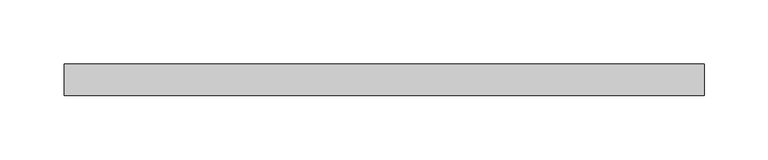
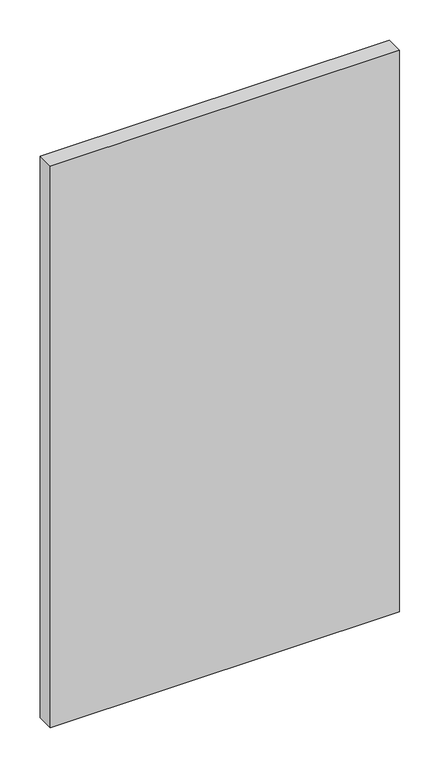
"""IFC4 building model written with IfcOpenShell, lengths in millimetres: plate geometry, Системная панель : ADSK_Cтеклопакет_25."""

from ifc_helpers import new_model, si_unit, origin, origin_with_axes, place, context, project, spatial, polyline, outline, extrude, source, transform, mapped, element, save


def plate_a1c813a6(model_context):
    return source(origin(), model_context, "Body", "SweptSolid", [
        extrude(outline(polyline([(250.0, -12.5), (-250.0, -12.5), (-250.0, 12.5), (250.0, 12.5), (250.0, -12.5)])), origin_with_axes(), (0.0, 0.0, 1.0), 850.0),
    ])


if __name__ == "__main__":
    model = new_model("IFC4")
    model_context = context("Model", 3, world=origin())
    ifc_project = project(units=[si_unit("LENGTHUNIT", "METRE", prefix="MILLI")], contexts=[model_context])
    site = spatial("IfcSite", under=ifc_project)
    building = spatial("IfcBuilding", under=site)
    placement = place(None, origin())
    plate_shape = plate_a1c813a6(model_context)
    element("IfcPlate", 1, ObjectType="Системная панель : ADSK_Cтеклопакет_25", at=placement, inside=building, context=model_context, shape_type="MappedRepresentation", body=[
        mapped(plate_shape, transform((0.0, 0.0, 0.0), x_axis=(1.0, 0.0, 0.0), y_axis=(0.0, 1.0, 0.0), z_axis=(0.0, 0.0, 1.0))),
    ])
    save(model, "model.ifc")
